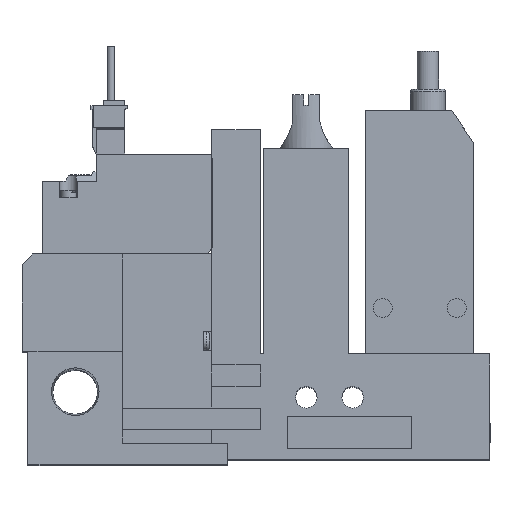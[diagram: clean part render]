
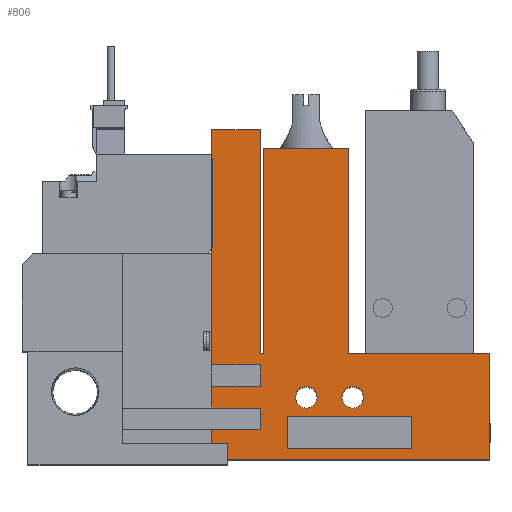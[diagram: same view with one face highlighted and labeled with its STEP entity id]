
A CAD part, top view. The second image highlights one B-rep face of the part: STEP entity #806.
In plain terms, the highlighted planar face has unit normal (0, 0, 1).
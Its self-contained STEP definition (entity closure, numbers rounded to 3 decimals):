
#806=ADVANCED_FACE('',(#1642,#1643,#1644,#1645),#1646,.T.);
#1642=FACE_OUTER_BOUND('',#2678,.T.);
#1643=FACE_BOUND('',#2679,.T.);
#1644=FACE_BOUND('',#2680,.T.);
#1645=FACE_BOUND('',#2681,.T.);
#1646=PLANE('',#2682);
#2678=EDGE_LOOP('',(#5700,#5701,#5702,#5703,#5704,#5705,#5706,#5707,#5708,#5709,#5710,#5711,#5712,#5713,#5714,#5715,#5716,#5717));
#2679=EDGE_LOOP('',(#5718,#5719,#5720,#5721));
#2680=EDGE_LOOP('',(#5722));
#2681=EDGE_LOOP('',(#5723));
#2682=AXIS2_PLACEMENT_3D('',#5724,#5725,#5726);
#5700=ORIENTED_EDGE('',*,*,#7297,.T.);
#5701=ORIENTED_EDGE('',*,*,#7165,.T.);
#5702=ORIENTED_EDGE('',*,*,#7307,.T.);
#5703=ORIENTED_EDGE('',*,*,#7308,.T.);
#5704=ORIENTED_EDGE('',*,*,#7275,.T.);
#5705=ORIENTED_EDGE('',*,*,#7153,.T.);
#5706=ORIENTED_EDGE('',*,*,#7303,.T.);
#5707=ORIENTED_EDGE('',*,*,#7135,.T.);
#5708=ORIENTED_EDGE('',*,*,#7260,.T.);
#5709=ORIENTED_EDGE('',*,*,#7241,.T.);
#5710=ORIENTED_EDGE('',*,*,#7273,.T.);
#5711=ORIENTED_EDGE('',*,*,#7289,.T.);
#5712=ORIENTED_EDGE('',*,*,#7252,.T.);
#5713=ORIENTED_EDGE('',*,*,#7185,.T.);
#5714=ORIENTED_EDGE('',*,*,#7291,.T.);
#5715=ORIENTED_EDGE('',*,*,#7292,.T.);
#5716=ORIENTED_EDGE('',*,*,#7255,.T.);
#5717=ORIENTED_EDGE('',*,*,#7294,.T.);
#5718=ORIENTED_EDGE('',*,*,#7201,.T.);
#5719=ORIENTED_EDGE('',*,*,#7209,.T.);
#5720=ORIENTED_EDGE('',*,*,#7300,.T.);
#5721=ORIENTED_EDGE('',*,*,#7299,.T.);
#5722=ORIENTED_EDGE('',*,*,#7213,.T.);
#5723=ORIENTED_EDGE('',*,*,#7259,.T.);
#5724=CARTESIAN_POINT('',(0.0,0.0,10.0));
#5725=DIRECTION('',(0.0,0.0,1.0));
#5726=DIRECTION('',(1.0,0.0,0.0));
#7135=EDGE_CURVE('',#8673,#8671,#8674,.T.);
#7153=EDGE_CURVE('',#8706,#8707,#8708,.T.);
#7165=EDGE_CURVE('',#8721,#8728,#8730,.T.);
#7185=EDGE_CURVE('',#8766,#8764,#8767,.T.);
#7201=EDGE_CURVE('',#8787,#8792,#8794,.T.);
#7209=EDGE_CURVE('',#8792,#8807,#8809,.T.);
#7213=EDGE_CURVE('',#8815,#8815,#8816,.T.);
#7241=EDGE_CURVE('',#8865,#8863,#8866,.T.);
#7252=EDGE_CURVE('',#8883,#8766,#8884,.T.);
#7255=EDGE_CURVE('',#8888,#8886,#8889,.T.);
#7259=EDGE_CURVE('',#8893,#8893,#8894,.T.);
#7260=EDGE_CURVE('',#8671,#8865,#8895,.T.);
#7273=EDGE_CURVE('',#8863,#8912,#8914,.T.);
#7275=EDGE_CURVE('',#8917,#8706,#8918,.T.);
#7289=EDGE_CURVE('',#8912,#8883,#8937,.T.);
#7291=EDGE_CURVE('',#8764,#8938,#8940,.T.);
#7292=EDGE_CURVE('',#8938,#8888,#8941,.T.);
#7294=EDGE_CURVE('',#8886,#8942,#8944,.T.);
#7297=EDGE_CURVE('',#8942,#8721,#8947,.T.);
#7299=EDGE_CURVE('',#8948,#8787,#8950,.T.);
#7300=EDGE_CURVE('',#8807,#8948,#8951,.T.);
#7303=EDGE_CURVE('',#8707,#8673,#8954,.T.);
#7307=EDGE_CURVE('',#8728,#8958,#8960,.T.);
#7308=EDGE_CURVE('',#8958,#8917,#8961,.T.);
#8671=VERTEX_POINT('',#11131);
#8673=VERTEX_POINT('',#11134);
#8674=LINE('',#11135,#11136);
#8706=VERTEX_POINT('',#11183);
#8707=VERTEX_POINT('',#11184);
#8708=LINE('',#11185,#11186);
#8721=VERTEX_POINT('',#11206);
#8728=VERTEX_POINT('',#11216);
#8730=LINE('',#11219,#11220);
#8764=VERTEX_POINT('',#11269);
#8766=VERTEX_POINT('',#11272);
#8767=LINE('',#11273,#11274);
#8787=VERTEX_POINT('',#11303);
#8792=VERTEX_POINT('',#11310);
#8794=LINE('',#11313,#11314);
#8807=VERTEX_POINT('',#11333);
#8809=LINE('',#11336,#11337);
#8815=VERTEX_POINT('',#11345);
#8816=CIRCLE('',#11346,2.0);
#8863=VERTEX_POINT('',#11418);
#8865=VERTEX_POINT('',#11421);
#8866=LINE('',#11422,#11423);
#8883=VERTEX_POINT('',#11446);
#8884=LINE('',#11447,#11448);
#8886=VERTEX_POINT('',#11451);
#8888=VERTEX_POINT('',#11454);
#8889=LINE('',#11455,#11456);
#8893=VERTEX_POINT('',#11463);
#8894=CIRCLE('',#11464,2.0);
#8895=LINE('',#11465,#11466);
#8912=VERTEX_POINT('',#11513);
#8914=LINE('',#11516,#11517);
#8917=VERTEX_POINT('',#11521);
#8918=LINE('',#11522,#11523);
#8937=LINE('',#11554,#11555);
#8938=VERTEX_POINT('',#11556);
#8940=LINE('',#11559,#11560);
#8941=LINE('',#11561,#11562);
#8942=VERTEX_POINT('',#11563);
#8944=LINE('',#11566,#11567);
#8947=LINE('',#11572,#11573);
#8948=VERTEX_POINT('',#11574);
#8950=LINE('',#11577,#11578);
#8951=LINE('',#11579,#11580);
#8954=LINE('',#11585,#11586);
#8958=VERTEX_POINT('',#11592);
#8960=LINE('',#11595,#11596);
#8961=LINE('',#11597,#11598);
#11131=CARTESIAN_POINT('',(35.1,5.5,10.0));
#11134=CARTESIAN_POINT('',(44.1,5.5,10.0));
#11135=CARTESIAN_POINT('',(0.0,5.5,10.0));
#11136=VECTOR('',#13153,1.0);
#11183=CARTESIAN_POINT('',(35.1,9.5,10.0));
#11184=CARTESIAN_POINT('',(44.1,9.5,10.0));
#11185=CARTESIAN_POINT('',(0.0,9.5,10.0));
#11186=VECTOR('',#13175,1.0);
#11206=CARTESIAN_POINT('',(35.1,17.5,10.0));
#11216=CARTESIAN_POINT('',(44.1,17.5,10.0));
#11219=CARTESIAN_POINT('',(0.0,17.5,10.0));
#11220=VECTOR('',#13187,1.0);
#11269=CARTESIAN_POINT('',(44.75,57.5,10.0));
#11272=CARTESIAN_POINT('',(60.45,57.5,10.0));
#11273=CARTESIAN_POINT('',(60.45,57.5,10.0));
#11274=VECTOR('',#13213,1.0);
#11303=CARTESIAN_POINT('',(49.1,2.0,10.0));
#11310=CARTESIAN_POINT('',(49.1,8.0,10.0));
#11313=CARTESIAN_POINT('',(49.1,0.0,10.0));
#11314=VECTOR('',#13235,1.0);
#11333=CARTESIAN_POINT('',(72.1,8.0,10.0));
#11336=CARTESIAN_POINT('',(0.0,8.0,10.0));
#11337=VECTOR('',#13243,1.0);
#11345=CARTESIAN_POINT('',(54.6,11.5,10.0));
#11346=AXIS2_PLACEMENT_3D('',#13249,#13250,#13251);
#11418=CARTESIAN_POINT('',(86.6,0.0,10.0));
#11421=CARTESIAN_POINT('',(35.1,0.0,10.0));
#11422=CARTESIAN_POINT('',(18.6,0.0,10.0));
#11423=VECTOR('',#13281,1.0);
#11446=CARTESIAN_POINT('',(60.45,19.5,10.0));
#11447=CARTESIAN_POINT('',(60.45,19.5,10.0));
#11448=VECTOR('',#13297,1.0);
#11451=CARTESIAN_POINT('',(44.1,61.0,10.0));
#11454=CARTESIAN_POINT('',(44.1,19.5,10.0));
#11455=CARTESIAN_POINT('',(44.1,19.5,10.0));
#11456=VECTOR('',#13300,1.0);
#11463=CARTESIAN_POINT('',(63.2,11.5,10.0));
#11464=AXIS2_PLACEMENT_3D('',#13304,#13305,#13306);
#11465=CARTESIAN_POINT('',(35.1,0.0,10.0));
#11466=VECTOR('',#13307,1.0);
#11513=CARTESIAN_POINT('',(86.6,19.5,10.0));
#11516=CARTESIAN_POINT('',(86.6,0.0,10.0));
#11517=VECTOR('',#13325,1.0);
#11521=CARTESIAN_POINT('',(35.1,13.5,10.0));
#11522=CARTESIAN_POINT('',(35.1,0.0,10.0));
#11523=VECTOR('',#13327,1.0);
#11554=CARTESIAN_POINT('',(86.6,19.5,10.0));
#11555=VECTOR('',#13343,1.0);
#11556=CARTESIAN_POINT('',(44.75,19.5,10.0));
#11559=CARTESIAN_POINT('',(44.75,57.5,10.0));
#11560=VECTOR('',#13345,1.0);
#11561=CARTESIAN_POINT('',(44.75,19.5,10.0));
#11562=VECTOR('',#13346,1.0);
#11563=CARTESIAN_POINT('',(35.1,61.0,10.0));
#11566=CARTESIAN_POINT('',(44.1,61.0,10.0));
#11567=VECTOR('',#13348,1.0);
#11572=CARTESIAN_POINT('',(35.1,61.0,10.0));
#11573=VECTOR('',#13351,1.0);
#11574=CARTESIAN_POINT('',(72.1,2.0,10.0));
#11577=CARTESIAN_POINT('',(0.0,2.0,10.0));
#11578=VECTOR('',#13353,1.0);
#11579=CARTESIAN_POINT('',(72.1,0.0,10.0));
#11580=VECTOR('',#13354,1.0);
#11585=CARTESIAN_POINT('',(44.1,0.0,10.0));
#11586=VECTOR('',#13357,1.0);
#11592=CARTESIAN_POINT('',(44.1,13.5,10.0));
#11595=CARTESIAN_POINT('',(44.1,0.0,10.0));
#11596=VECTOR('',#13361,1.0);
#11597=CARTESIAN_POINT('',(0.0,13.5,10.0));
#11598=VECTOR('',#13362,1.0);
#13153=DIRECTION('',(-1.0,0.0,0.0));
#13175=DIRECTION('',(1.0,0.0,0.0));
#13187=DIRECTION('',(1.0,0.0,0.0));
#13213=DIRECTION('',(-1.0,0.0,0.0));
#13235=DIRECTION('',(0.0,1.0,0.0));
#13243=DIRECTION('',(1.0,0.0,0.0));
#13249=CARTESIAN_POINT('',(52.6,11.5,10.0));
#13250=DIRECTION('',(0.0,0.0,-1.0));
#13251=DIRECTION('',(1.0,0.0,0.0));
#13281=DIRECTION('',(1.0,0.0,0.0));
#13297=DIRECTION('',(0.0,1.0,0.0));
#13300=DIRECTION('',(0.0,1.0,0.0));
#13304=CARTESIAN_POINT('',(61.2,11.5,10.0));
#13305=DIRECTION('',(0.0,0.0,-1.0));
#13306=DIRECTION('',(1.0,0.0,0.0));
#13307=DIRECTION('',(0.0,-1.0,0.0));
#13325=DIRECTION('',(0.0,1.0,0.0));
#13327=DIRECTION('',(0.0,-1.0,0.0));
#13343=DIRECTION('',(-1.0,0.0,0.0));
#13345=DIRECTION('',(0.0,-1.0,0.0));
#13346=DIRECTION('',(-1.0,0.0,0.0));
#13348=DIRECTION('',(-1.0,0.0,0.0));
#13351=DIRECTION('',(0.0,-1.0,0.0));
#13353=DIRECTION('',(-1.0,0.0,0.0));
#13354=DIRECTION('',(0.0,-1.0,0.0));
#13357=DIRECTION('',(0.0,-1.0,0.0));
#13361=DIRECTION('',(0.0,-1.0,0.0));
#13362=DIRECTION('',(-1.0,0.0,0.0));
